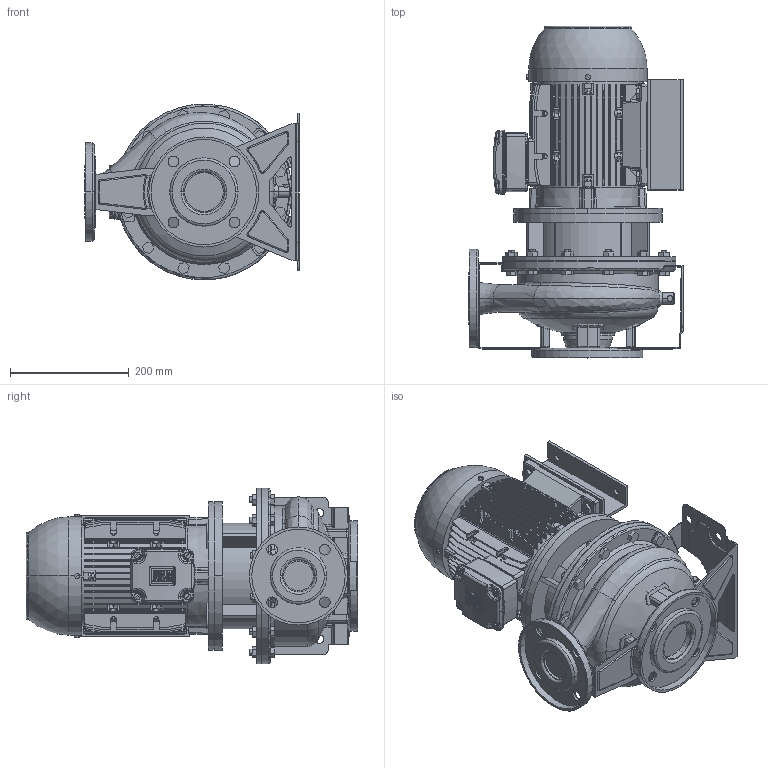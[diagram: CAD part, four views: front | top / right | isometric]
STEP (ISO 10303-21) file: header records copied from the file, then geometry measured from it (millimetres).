
FILE_DESCRIPTION (( 'STEP AP214' ), '1' );
FILE_NAME ('3LS4 50-200_2.2_(100L)_W21.STEP', '2026-10-05T01:22:42', ( '' ), ( '' ), 'SwSTEP 2.0', 'SolidWorks 2024', '' );
FILE_SCHEMA (( 'AUTOMOTIVE_DESIGN' ));
Length unit declared in the file: inch
Products named in the file (3): 100L ALIE3_W21T_B35; 3SF4_50-200_2_2; 3LS4 50-200_2.2_(100L)_W21
Assembly tree (2 placements, depth 2):
  3LS4 50-200_2.2_(100L)_W21
    3SF4_50-200_2_2
    100L ALIE3_W21T_B35
Bounding box: 360 x 558.1 x 295.54 mm (x, y, z)
Volume: 16090554.5 mm3; surface area: 1668491.7 mm2
Topology: 17 solids, 17 shells, 3471 faces, 9048 edges, 5871 vertices
Faces by surface type: plane 2247, cylinder 745, torus 190, bspline 139, cone 126, sphere 24
Entity records: 153753 total; most frequent: CARTESIAN_POINT 69153, ORIENTED_EDGE 18072, DIRECTION 16597, EDGE_CURVE 9036, VECTOR 6145, LINE 6145, VERTEX_POINT 5871, AXIS2_PLACEMENT_3D 5226
